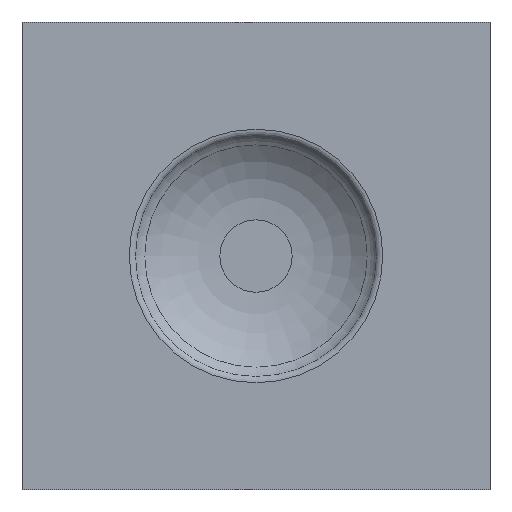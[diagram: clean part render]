
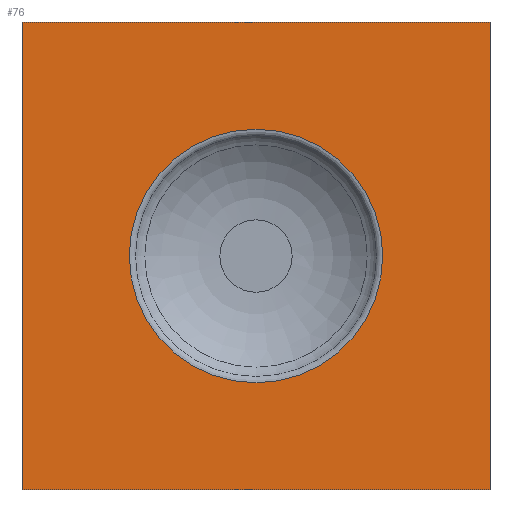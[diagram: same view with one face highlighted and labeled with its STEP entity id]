
A CAD part, top view. The second image highlights one B-rep face of the part: STEP entity #76.
In plain terms, the highlighted planar face has unit normal (0, 0, 1).
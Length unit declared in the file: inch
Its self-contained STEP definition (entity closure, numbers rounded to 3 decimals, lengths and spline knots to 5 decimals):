
#76=ADVANCED_FACE('',(#92,#93),#94,.F.);
#92=FACE_OUTER_BOUND('',#125,.T.);
#93=FACE_BOUND('',#126,.T.);
#94=PLANE('',#127);
#125=EDGE_LOOP('',(#160,#161,#162,#163));
#126=EDGE_LOOP('',(#164));
#127=AXIS2_PLACEMENT_3D('',#165,#166,#167);
#160=ORIENTED_EDGE('',*,*,#234,.T.);
#161=ORIENTED_EDGE('',*,*,#235,.T.);
#162=ORIENTED_EDGE('',*,*,#236,.T.);
#163=ORIENTED_EDGE('',*,*,#237,.T.);
#164=ORIENTED_EDGE('',*,*,#233,.F.);
#165=CARTESIAN_POINT('',(-9.71,-1.12388,0.05));
#166=DIRECTION('',(0.0,0.,-1.0));
#167=DIRECTION('',(1.0,0.0,0.0));
#233=EDGE_CURVE('',#253,#253,#254,.T.);
#234=EDGE_CURVE('',#255,#256,#257,.T.);
#235=EDGE_CURVE('',#256,#258,#259,.T.);
#236=EDGE_CURVE('',#258,#260,#261,.T.);
#237=EDGE_CURVE('',#260,#255,#262,.T.);
#253=VERTEX_POINT('',#287);
#254=CIRCLE('',#288,0.54185);
#255=VERTEX_POINT('',#289);
#256=VERTEX_POINT('',#290);
#257=LINE('',#291,#292);
#258=VERTEX_POINT('',#293);
#259=LINE('',#294,#295);
#260=VERTEX_POINT('',#296);
#261=LINE('',#297,#298);
#262=LINE('',#299,#300);
#287=CARTESIAN_POINT('',(6.86687,-0.75497,0.05));
#288=AXIS2_PLACEMENT_3D('',#334,#335,#336);
#289=CARTESIAN_POINT('',(7.32549,0.24506,0.05));
#290=CARTESIAN_POINT('',(5.32456,0.24506,0.05));
#291=CARTESIAN_POINT('',(-1.71399,0.24506,0.05));
#292=VECTOR('',#337,1.0);
#293=CARTESIAN_POINT('',(5.32456,-1.755,0.05));
#294=CARTESIAN_POINT('',(5.32456,-0.92693,0.05));
#295=VECTOR('',#338,1.0);
#296=CARTESIAN_POINT('',(7.32549,-1.755,0.05));
#297=CARTESIAN_POINT('',(-1.71399,-1.755,0.05));
#298=VECTOR('',#339,1.0);
#299=CARTESIAN_POINT('',(7.32549,-0.92693,0.05));
#300=VECTOR('',#340,1.0);
#334=CARTESIAN_POINT('',(6.32502,-0.75497,0.05));
#335=DIRECTION('',(0.,0.,1.0));
#336=DIRECTION('',(-1.0,0.,0.));
#337=DIRECTION('',(-1.0,-0.0,0.0));
#338=DIRECTION('',(0.0,-1.0,0.));
#339=DIRECTION('',(1.0,0.0,0.0));
#340=DIRECTION('',(0.0,1.0,0.));
